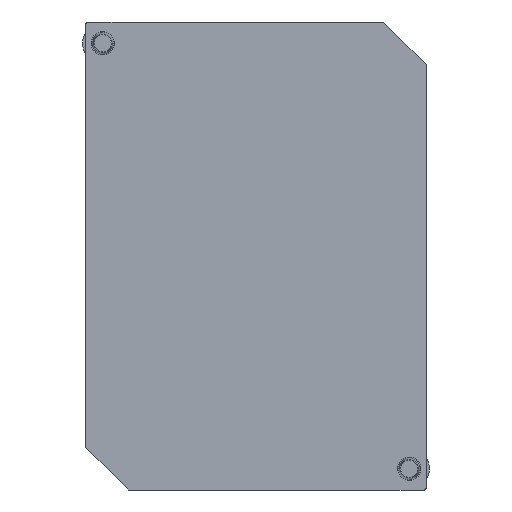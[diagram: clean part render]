
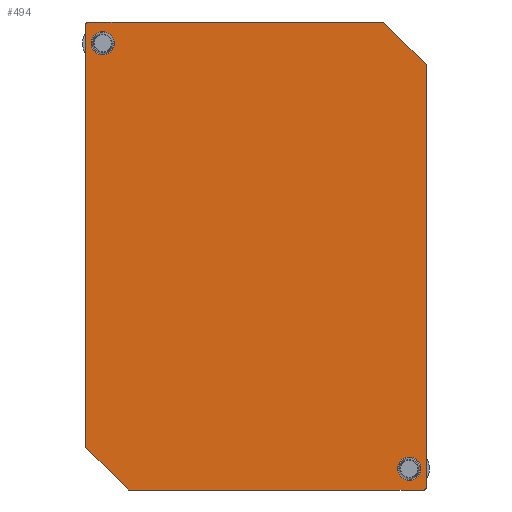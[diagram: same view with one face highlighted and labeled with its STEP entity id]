
A CAD part, front view. The second image highlights one B-rep face of the part: STEP entity #494.
In plain terms, the highlighted planar face has unit normal (0, -1, 0).
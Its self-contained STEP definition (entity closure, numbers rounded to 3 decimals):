
#146=CARTESIAN_POINT('',(36.,0.,-50.));
#147=DIRECTION('',(0.,1.,0.));
#148=DIRECTION('',(1.,0.,0.));
#149=AXIS2_PLACEMENT_3D('',#146,#147,#148);
#155=CARTESIAN_POINT('',(36.,0.,-50.));
#156=DIRECTION('',(0.,1.,0.));
#157=DIRECTION('',(-1.,0.,0.));
#158=AXIS2_PLACEMENT_3D('',#155,#156,#157);
#163=CARTESIAN_POINT('',(-36.,0.,50.));
#164=DIRECTION('',(0.,1.,0.));
#165=DIRECTION('',(1.,0.,0.));
#166=AXIS2_PLACEMENT_3D('',#163,#164,#165);
#171=CARTESIAN_POINT('',(-36.,0.,50.));
#172=DIRECTION('',(0.,1.,0.));
#173=DIRECTION('',(-1.,0.,0.));
#174=AXIS2_PLACEMENT_3D('',#171,#172,#173);
#179=DIRECTION('',(-0.707,0.,0.707));
#180=VECTOR('',#179,14.142);
#181=CARTESIAN_POINT('',(40.,0.,45.));
#182=LINE('',#181,#180);
#186=DIRECTION('',(0.,0.,-1.));
#187=VECTOR('',#186,99.5);
#188=CARTESIAN_POINT('',(40.,0.,45.));
#189=LINE('',#188,#187);
#193=CARTESIAN_POINT('',(39.5,0.,-54.5));
#194=DIRECTION('',(0.,-1.,0.));
#195=DIRECTION('',(0.,0.,-1.));
#196=AXIS2_PLACEMENT_3D('',#193,#194,#195);
#201=DIRECTION('',(-1.,0.,0.));
#202=VECTOR('',#201,69.5);
#203=CARTESIAN_POINT('',(39.5,0.,-55.));
#204=LINE('',#203,#202);
#208=DIRECTION('',(0.707,0.,-0.707));
#209=VECTOR('',#208,14.142);
#210=CARTESIAN_POINT('',(-40.,0.,-45.));
#211=LINE('',#210,#209);
#215=DIRECTION('',(0.,0.,1.));
#216=VECTOR('',#215,99.5);
#217=CARTESIAN_POINT('',(-40.,0.,-45.));
#218=LINE('',#217,#216);
#222=CARTESIAN_POINT('',(-39.5,0.,54.5));
#223=DIRECTION('',(0.,-1.,0.));
#224=DIRECTION('',(0.,0.,1.));
#225=AXIS2_PLACEMENT_3D('',#222,#223,#224);
#230=DIRECTION('',(1.,0.,0.));
#231=VECTOR('',#230,69.5);
#232=CARTESIAN_POINT('',(-39.5,0.,55.));
#233=LINE('',#232,#231);
#411=CARTESIAN_POINT('',(38.75,0.,-50.));
#412=CARTESIAN_POINT('',(33.25,0.,-50.));
#413=VERTEX_POINT('',#411);
#414=VERTEX_POINT('',#412);
#415=CARTESIAN_POINT('',(-33.25,0.,50.));
#416=CARTESIAN_POINT('',(-38.75,0.,50.));
#417=VERTEX_POINT('',#415);
#418=VERTEX_POINT('',#416);
#427=CARTESIAN_POINT('',(-39.5,0.,55.));
#428=CARTESIAN_POINT('',(-40.,0.,54.5));
#429=VERTEX_POINT('',#427);
#430=VERTEX_POINT('',#428);
#435=CARTESIAN_POINT('',(39.5,0.,-55.));
#436=CARTESIAN_POINT('',(40.,0.,-54.5));
#437=VERTEX_POINT('',#435);
#438=VERTEX_POINT('',#436);
#443=CARTESIAN_POINT('',(40.,0.,45.));
#444=CARTESIAN_POINT('',(30.,0.,55.));
#445=VERTEX_POINT('',#443);
#446=VERTEX_POINT('',#444);
#451=CARTESIAN_POINT('',(-40.,0.,-45.));
#452=CARTESIAN_POINT('',(-30.,0.,-55.));
#453=VERTEX_POINT('',#451);
#454=VERTEX_POINT('',#452);
#459=CARTESIAN_POINT('',(0.,0.,0.));
#460=DIRECTION('',(0.,1.,0.));
#461=DIRECTION('',(1.,0.,0.));
#462=AXIS2_PLACEMENT_3D('',#459,#460,#461);
#463=PLANE('',#462);
#465=ORIENTED_EDGE('',*,*,#464,.F.);
#467=ORIENTED_EDGE('',*,*,#466,.T.);
#469=ORIENTED_EDGE('',*,*,#468,.F.);
#471=ORIENTED_EDGE('',*,*,#470,.T.);
#473=ORIENTED_EDGE('',*,*,#472,.F.);
#475=ORIENTED_EDGE('',*,*,#474,.T.);
#477=ORIENTED_EDGE('',*,*,#476,.F.);
#479=ORIENTED_EDGE('',*,*,#478,.T.);
#480=EDGE_LOOP('',(#465,#467,#469,#471,#473,#475,#477,#479));
#481=FACE_OUTER_BOUND('',#480,.F.);
#483=ORIENTED_EDGE('',*,*,#482,.F.);
#485=ORIENTED_EDGE('',*,*,#484,.F.);
#486=EDGE_LOOP('',(#483,#485));
#487=FACE_BOUND('',#486,.F.);
#489=ORIENTED_EDGE('',*,*,#488,.F.);
#491=ORIENTED_EDGE('',*,*,#490,.F.);
#492=EDGE_LOOP('',(#489,#491));
#493=FACE_BOUND('',#492,.F.);
#150=CIRCLE('',#149,2.75);
#159=CIRCLE('',#158,2.75);
#167=CIRCLE('',#166,2.75);
#175=CIRCLE('',#174,2.75);
#197=CIRCLE('',#196,0.5);
#226=CIRCLE('',#225,0.5);
#464=EDGE_CURVE('',#445,#446,#182,.T.);
#466=EDGE_CURVE('',#445,#438,#189,.T.);
#468=EDGE_CURVE('',#437,#438,#197,.T.);
#470=EDGE_CURVE('',#437,#454,#204,.T.);
#472=EDGE_CURVE('',#453,#454,#211,.T.);
#474=EDGE_CURVE('',#453,#430,#218,.T.);
#476=EDGE_CURVE('',#429,#430,#226,.T.);
#478=EDGE_CURVE('',#429,#446,#233,.T.);
#482=EDGE_CURVE('',#417,#418,#167,.T.);
#484=EDGE_CURVE('',#418,#417,#175,.T.);
#488=EDGE_CURVE('',#413,#414,#150,.T.);
#490=EDGE_CURVE('',#414,#413,#159,.T.);
#494=ADVANCED_FACE('',(#481,#487,#493),#463,.F.);
